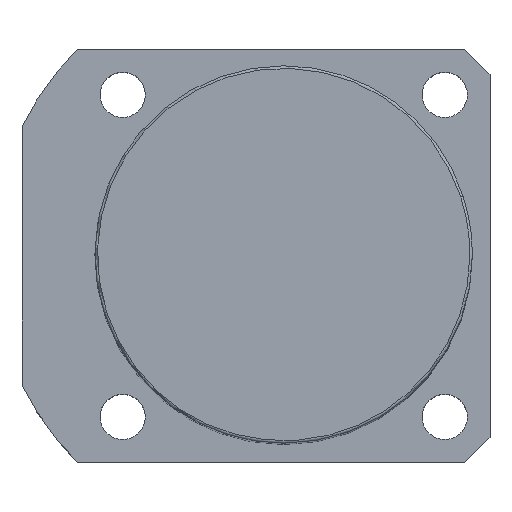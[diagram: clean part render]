
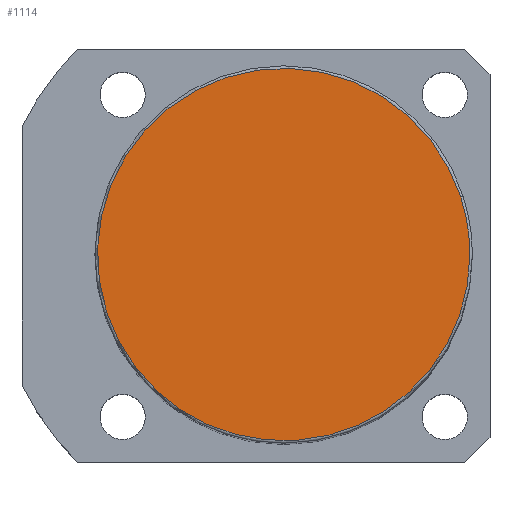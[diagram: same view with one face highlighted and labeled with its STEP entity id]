
A CAD part, top view. The second image highlights one B-rep face of the part: STEP entity #1114.
In plain terms, the highlighted planar face has unit normal (0, 0, 1).
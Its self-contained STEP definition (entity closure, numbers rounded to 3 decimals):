
#1080=CARTESIAN_POINT('',(37.0,0.0,168.0));
#1081=VERTEX_POINT('',#1080);
#1082=CARTESIAN_POINT('',(35.189,11.434,168.0));
#1083=VERTEX_POINT('',#1082);
#1084=CARTESIAN_POINT('',(0.0,0.0,168.0));
#1085=DIRECTION('',(0.0,0.0,1.0));
#1086=DIRECTION('',(1.0,0.0,0.0));
#1087=AXIS2_PLACEMENT_3D('',#1084,#1085,#1086);
#1088=CIRCLE('',#1087,37.0);
#1089=EDGE_CURVE('no 1686',#1081,#1083,#1088,.T.);
#1090=ORIENTED_EDGE('',*,*,#1089,.T.);
#1091=CARTESIAN_POINT('',(-35.189,-11.434,168.0));
#1092=VERTEX_POINT('',#1091);
#1093=CARTESIAN_POINT('',(0.0,0.0,168.0));
#1094=DIRECTION('',(0.0,0.0,1.0));
#1095=DIRECTION('',(1.0,0.0,0.0));
#1096=AXIS2_PLACEMENT_3D('',#1093,#1094,#1095);
#1097=CIRCLE('',#1096,37.0);
#1098=EDGE_CURVE('no 1692',#1083,#1092,#1097,.T.);
#1099=ORIENTED_EDGE('',*,*,#1098,.T.);
#1100=CARTESIAN_POINT('',(0.0,0.0,168.0));
#1101=DIRECTION('',(0.0,0.0,1.0));
#1102=DIRECTION('',(1.0,0.0,0.0));
#1103=AXIS2_PLACEMENT_3D('',#1100,#1101,#1102);
#1104=CIRCLE('',#1103,37.0);
#1105=EDGE_CURVE('no 1696',#1092,#1081,#1104,.T.);
#1106=ORIENTED_EDGE('',*,*,#1105,.T.);
#1107=EDGE_LOOP('',(#1090,#1099,#1106));
#1108=FACE_OUTER_BOUND('',#1107,.T.);
#1109=CARTESIAN_POINT('',(0.0,0.0,168.0));
#1110=DIRECTION('',(0.0,0.0,1.0));
#1111=DIRECTION('',(1.0,0.0,0.0));
#1112=AXIS2_PLACEMENT_3D('',#1109,#1110,#1111);
#1113=PLANE('',#1112);
#1114=ADVANCED_FACE('no 1677',(#1108),#1113,.T.);
